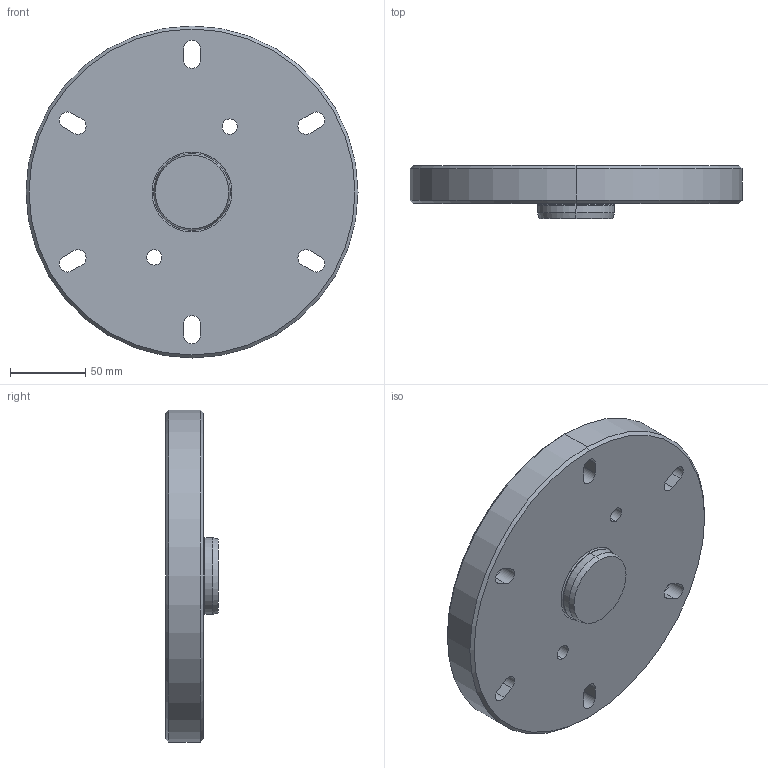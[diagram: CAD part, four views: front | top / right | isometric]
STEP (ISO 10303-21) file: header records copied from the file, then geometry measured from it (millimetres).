
FILE_DESCRIPTION (( 'STEP AP214' ), '1' );
FILE_NAME ('05-0221.STEP', '2022-11-10T17:00:10', ( '' ), ( '' ), 'SwSTEP 2.0', 'SolidWorks 2021', '' );
FILE_SCHEMA (( 'AUTOMOTIVE_DESIGN' ));
Length unit declared in the file: millimetre
Products named in the file (1): 05-0221
Bounding box: 220 x 35 x 220 mm (x, y, z)
Volume: 919749.2 mm3; surface area: 101831.4 mm2
Topology: 1 solids, 1 shells, 90 faces, 230 edges, 150 vertices
Faces by surface type: cylinder 46, plane 34, cone 6, torus 4
Entity records: 3673 total; most frequent: DIRECTION 518, CARTESIAN_POINT 471, ORIENTED_EDGE 460, EDGE_CURVE 230, AXIS2_PLACEMENT_3D 197, VERTEX_POINT 150, VECTOR 124, LINE 124
